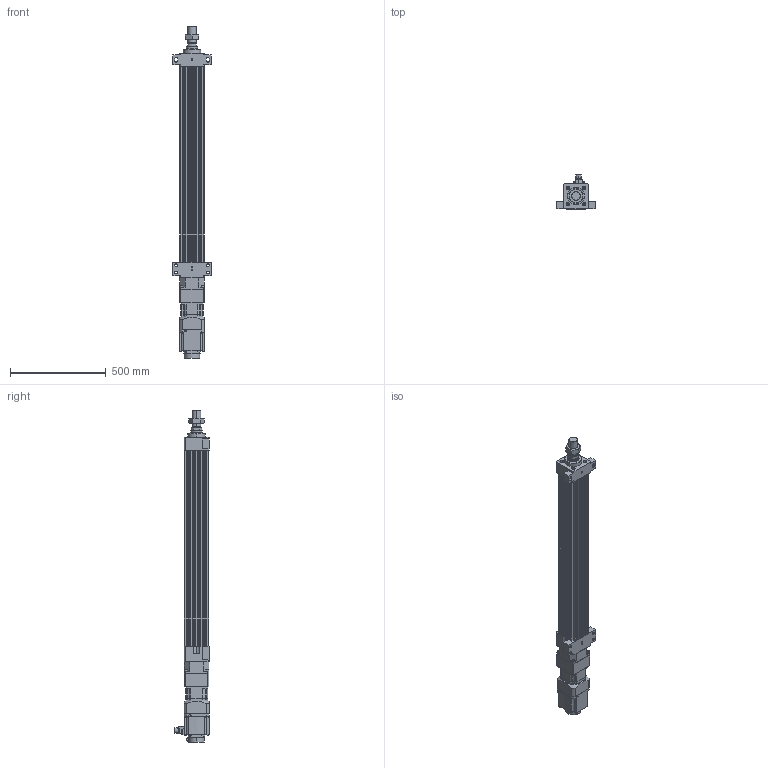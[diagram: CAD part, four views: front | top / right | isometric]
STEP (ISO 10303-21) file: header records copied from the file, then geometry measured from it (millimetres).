
FILE_DESCRIPTION (( 'STEP AP203' ), '1' );
FILE_NAME ('HES130NS(FS)(HS)-S800-W015G00-M-FFB.STEP', '2023-01-30T09:33:16', ( 'tms' ), ( '' ), 'SwSTEP 2.0', 'SolidWorks 2013', '' );
FILE_SCHEMA (( 'CONFIG_CONTROL_DESIGN' ));
Length unit declared in the file: millimetre
Products named in the file (8): P0401400706; HES130-S800-G120-FFB; HES130NS(FS)(HS)-S800-W015G00-M-FFB; HG-SR152; AB1151; HES130 ROD M ST800; M45X1.5P; AB115-003[HG-SR152]
Assembly tree (7 placements, depth 3):
  HES130NS(FS)(HS)-S800-W015G00-M-FFB
    HES130-S800-G120-FFB
    HES130 ROD M ST800
    M45X1.5P
    AB115-003[HG-SR152]
      AB1151
      P0401400706
    HG-SR152
Bounding box: 200 x 177.49 x 1729.5 mm (x, y, z)
Volume: 13850284.3 mm3; surface area: 1846632.6 mm2
Topology: 4 solids, 15 shells, 1211 faces, 3070 edges, 1998 vertices
Faces by surface type: plane 571, cylinder 546, cone 82, bspline 8, torus 4
Entity records: 38310 total; most frequent: CARTESIAN_POINT 7264, DIRECTION 6633, ORIENTED_EDGE 6092, EDGE_CURVE 3056, AXIS2_PLACEMENT_3D 2435, VERTEX_POINT 1998, VECTOR 1763, LINE 1763
